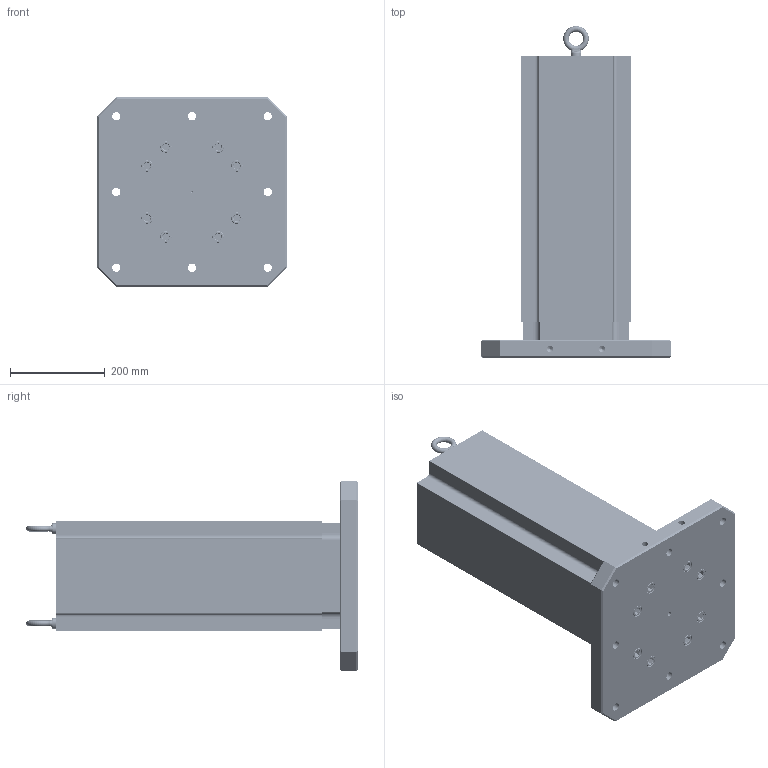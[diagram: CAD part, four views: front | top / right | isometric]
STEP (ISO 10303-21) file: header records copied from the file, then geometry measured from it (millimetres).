
FILE_DESCRIPTION (( 'STEP AP214' ), '1' );
FILE_NAME ('MT-4004A.STEP', '2022-02-18T16:02:23', ( '' ), ( '' ), 'SwSTEP 2.0', 'SolidWorks 2021', '' );
FILE_SCHEMA (( 'AUTOMOTIVE_DESIGN' ));
Length unit declared in the file: inch
Products named in the file (9): RL96-400T4T_MT-4004A-T; RL96-400T4BA; MT-4004A; RL96-14TC; M16X065.SHCS_91290A835; M160-156.OR_1302N145; M12X24MM.EB (McM 3040T15)_3040T15; M6X020.SHCS_91290A319; M10x020.DP_91595A640
Assembly tree (20 placements, depth 2):
  MT-4004A
    RL96-400T4BA
    RL96-400T4T_MT-4004A-T
    RL96-14TC
    M12X24MM.EB (McM 3040T15)_3040T15  x2
    M16X065.SHCS_91290A835  x8
    M160-156.OR_1302N145
    M10x020.DP_91595A640  x2
    M6X020.SHCS_91290A319  x4
Bounding box: 400 x 700.9 x 400 mm (x, y, z)
Volume: 25579433.5 mm3; surface area: 1457310.9 mm2
Topology: 20 solids, 20 shells, 1945 faces, 5216 edges, 3334 vertices
Faces by surface type: cylinder 1328, cone 282, plane 267, bspline 42, torus 18, sphere 8
Entity records: 30243 total; most frequent: CARTESIAN_POINT 13269, ORIENTED_EDGE 3530, DIRECTION 3265, EDGE_CURVE 1765, AXIS2_PLACEMENT_3D 1241, VERTEX_POINT 1127, EDGE_LOOP 796, LINE 783
